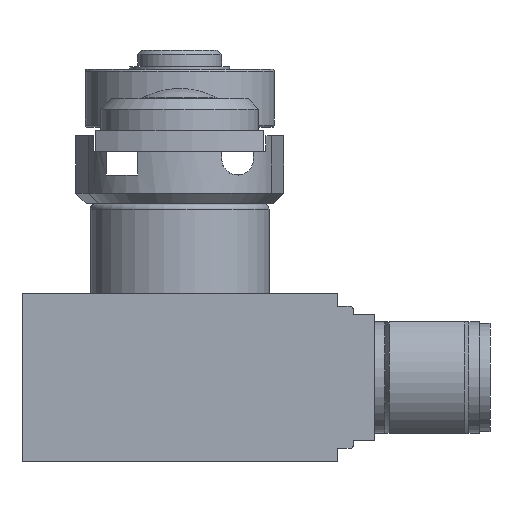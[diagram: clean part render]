
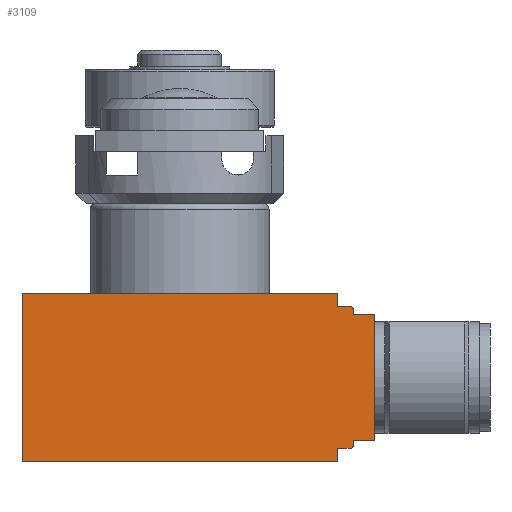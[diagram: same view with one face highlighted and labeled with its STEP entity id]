
A CAD part, front view. The second image highlights one B-rep face of the part: STEP entity #3109.
In plain terms, the highlighted planar face has unit normal (0, -1, 0) as drawn and (0, 0, -1) by its records, which use the part's own axes.
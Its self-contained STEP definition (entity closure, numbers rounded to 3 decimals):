
#45=LINE('',#4595,#337);
#53=LINE('',#4610,#345);
#85=LINE('',#4713,#377);
#101=LINE('',#4758,#393);
#117=LINE('',#4791,#409);
#118=LINE('',#4794,#410);
#119=LINE('',#4798,#411);
#120=LINE('',#4800,#412);
#121=LINE('',#4802,#413);
#122=LINE('',#4804,#414);
#123=LINE('',#4806,#415);
#124=LINE('',#4809,#416);
#337=VECTOR('',#3655,1.25);
#345=VECTOR('',#3663,1.25);
#377=VECTOR('',#3767,30.);
#393=VECTOR('',#3811,16.);
#409=VECTOR('',#3849,30.);
#410=VECTOR('',#3852,1.2);
#411=VECTOR('',#3855,0.45);
#412=VECTOR('',#3856,2.);
#413=VECTOR('',#3857,12.);
#414=VECTOR('',#3858,2.);
#415=VECTOR('',#3859,0.45);
#416=VECTOR('',#3862,1.2);
#659=PLANE('',#3350);
#852=FACE_OUTER_BOUND('',#1056,.T.);
#1056=EDGE_LOOP('',(#2322,#2323,#2324,#2325,#2326,#2327,#2328,#2329,#2330,
#2331,#2332,#2333,#2334,#2335));
#1268=CIRCLE('',#3351,0.3);
#1269=CIRCLE('',#3352,0.3);
#1373=VERTEX_POINT('',#4587);
#1376=VERTEX_POINT('',#4592);
#1377=VERTEX_POINT('',#4594);
#1384=VERTEX_POINT('',#4608);
#1419=VERTEX_POINT('',#4711);
#1434=VERTEX_POINT('',#4756);
#1441=VERTEX_POINT('',#4793);
#1442=VERTEX_POINT('',#4795);
#1443=VERTEX_POINT('',#4797);
#1444=VERTEX_POINT('',#4799);
#1445=VERTEX_POINT('',#4801);
#1446=VERTEX_POINT('',#4803);
#1447=VERTEX_POINT('',#4805);
#1448=VERTEX_POINT('',#4807);
#1678=EDGE_CURVE('',#1377,#1376,#45,.T.);
#1686=EDGE_CURVE('',#1373,#1384,#53,.T.);
#1735=EDGE_CURVE('',#1384,#1419,#85,.T.);
#1757=EDGE_CURVE('',#1434,#1419,#101,.T.);
#1774=EDGE_CURVE('',#1434,#1377,#117,.T.);
#1775=EDGE_CURVE('',#1376,#1441,#118,.T.);
#1776=EDGE_CURVE('',#1441,#1442,#1268,.T.);
#1777=EDGE_CURVE('',#1442,#1443,#119,.T.);
#1778=EDGE_CURVE('',#1443,#1444,#120,.T.);
#1779=EDGE_CURVE('',#1445,#1444,#121,.T.);
#1780=EDGE_CURVE('',#1446,#1445,#122,.T.);
#1781=EDGE_CURVE('',#1447,#1446,#123,.T.);
#1782=EDGE_CURVE('',#1448,#1447,#1269,.T.);
#1783=EDGE_CURVE('',#1373,#1448,#124,.T.);
#2322=ORIENTED_EDGE('',*,*,#1775,.T.);
#2323=ORIENTED_EDGE('',*,*,#1776,.T.);
#2324=ORIENTED_EDGE('',*,*,#1777,.T.);
#2325=ORIENTED_EDGE('',*,*,#1778,.T.);
#2326=ORIENTED_EDGE('',*,*,#1779,.F.);
#2327=ORIENTED_EDGE('',*,*,#1780,.F.);
#2328=ORIENTED_EDGE('',*,*,#1781,.F.);
#2329=ORIENTED_EDGE('',*,*,#1782,.F.);
#2330=ORIENTED_EDGE('',*,*,#1783,.F.);
#2331=ORIENTED_EDGE('',*,*,#1686,.T.);
#2332=ORIENTED_EDGE('',*,*,#1735,.T.);
#2333=ORIENTED_EDGE('',*,*,#1757,.F.);
#2334=ORIENTED_EDGE('',*,*,#1774,.T.);
#2335=ORIENTED_EDGE('',*,*,#1678,.T.);
#3109=ADVANCED_FACE('',(#852),#659,.F.);
#3350=AXIS2_PLACEMENT_3D('',#4792,#3850,#3851);
#3351=AXIS2_PLACEMENT_3D('',#4796,#3853,#3854);
#3352=AXIS2_PLACEMENT_3D('',#4808,#3860,#3861);
#3655=DIRECTION('',(0.,-1.,0.));
#3663=DIRECTION('',(0.,-1.,0.));
#3767=DIRECTION('',(-1.,0.,0.));
#3811=DIRECTION('',(0.,-1.,0.));
#3849=DIRECTION('',(1.,0.,0.));
#3850=DIRECTION('center_axis',(0.,0.,1.));
#3851=DIRECTION('ref_axis',(1.,0.,0.));
#3852=DIRECTION('',(1.,0.,0.));
#3853=DIRECTION('center_axis',(0.,0.,-1.));
#3854=DIRECTION('ref_axis',(0.707,0.707,0.));
#3855=DIRECTION('',(0.,-1.,0.));
#3856=DIRECTION('',(1.,0.,0.));
#3857=DIRECTION('',(0.,1.,0.));
#3858=DIRECTION('',(1.,0.,0.));
#3859=DIRECTION('',(0.,1.,0.));
#3860=DIRECTION('center_axis',(0.,0.,1.));
#3861=DIRECTION('ref_axis',(0.707,-0.707,0.));
#3862=DIRECTION('',(1.,0.,0.));
#4587=CARTESIAN_POINT('',(15.,-14.75,-43.));
#4592=CARTESIAN_POINT('',(15.,-1.25,-43.));
#4594=CARTESIAN_POINT('',(15.,0.,-43.));
#4595=CARTESIAN_POINT('',(15.,0.,-43.));
#4608=CARTESIAN_POINT('',(15.,-16.,-43.));
#4610=CARTESIAN_POINT('',(15.,-14.75,-43.));
#4711=CARTESIAN_POINT('',(-15.,-16.,-43.));
#4713=CARTESIAN_POINT('',(15.,-16.,-43.));
#4756=CARTESIAN_POINT('',(-15.,0.,-43.));
#4758=CARTESIAN_POINT('',(-15.,0.,-43.));
#4791=CARTESIAN_POINT('',(-15.,0.,-43.));
#4792=CARTESIAN_POINT('Origin',(1.75,-16.,-43.));
#4793=CARTESIAN_POINT('',(16.2,-1.25,-43.));
#4794=CARTESIAN_POINT('',(15.,-1.25,-43.));
#4795=CARTESIAN_POINT('',(16.5,-1.55,-43.));
#4796=CARTESIAN_POINT('Origin',(16.2,-1.55,-43.));
#4797=CARTESIAN_POINT('',(16.5,-2.,-43.));
#4798=CARTESIAN_POINT('',(16.5,-1.55,-43.));
#4799=CARTESIAN_POINT('',(18.5,-2.,-43.));
#4800=CARTESIAN_POINT('',(16.5,-2.,-43.));
#4801=CARTESIAN_POINT('',(18.5,-14.,-43.));
#4802=CARTESIAN_POINT('',(18.5,-14.,-43.));
#4803=CARTESIAN_POINT('',(16.5,-14.,-43.));
#4804=CARTESIAN_POINT('',(16.5,-14.,-43.));
#4805=CARTESIAN_POINT('',(16.5,-14.45,-43.));
#4806=CARTESIAN_POINT('',(16.5,-14.45,-43.));
#4807=CARTESIAN_POINT('',(16.2,-14.75,-43.));
#4808=CARTESIAN_POINT('Origin',(16.2,-14.45,-43.));
#4809=CARTESIAN_POINT('',(15.,-14.75,-43.));
